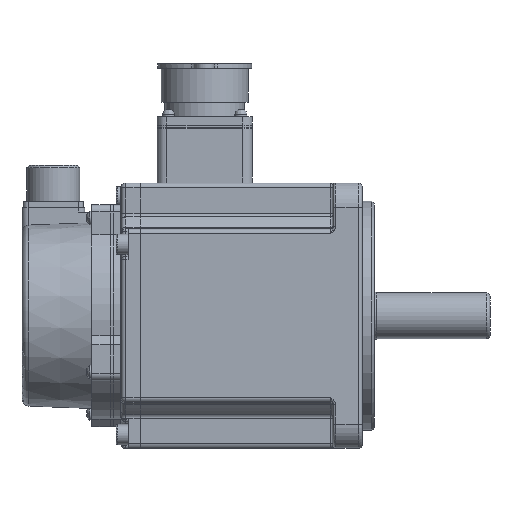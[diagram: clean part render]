
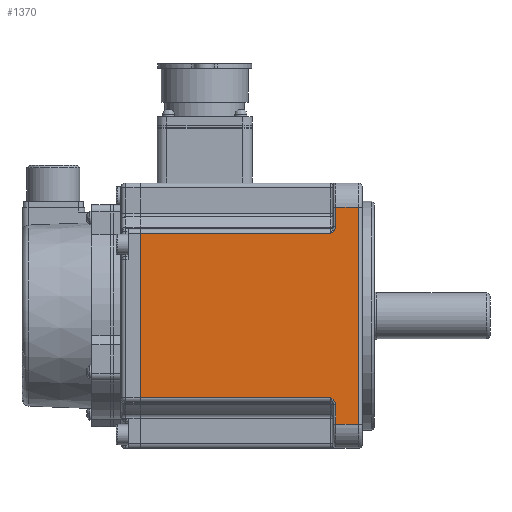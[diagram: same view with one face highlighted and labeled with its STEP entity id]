
A CAD part, left-side view. The second image highlights one B-rep face of the part: STEP entity #1370.
In plain terms, the highlighted planar face has unit normal (-1, 0, 0).
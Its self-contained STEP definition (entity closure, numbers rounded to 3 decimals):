
#598=PLANE('',#15489);
#1370=ADVANCED_FACE('',(#2690),#598,.T.);
#2690=FACE_OUTER_BOUND('',#3607,.T.);
#3607=EDGE_LOOP('',(#6966,#6967,#6968,#6969,#6970,#6971,#6972,#6973,#6974,
#6975));
#4674=B_SPLINE_CURVE_WITH_KNOTS('',3,(#22686,#22687,#22688,#22689,#22690,
#22691,#22692,#22693,#22694,#22695,#22696,#22697,#22698,#22699,#22700,#22701,
#22702,#22703,#22704),.UNSPECIFIED.,.F.,.F.,(4,3,3,3,3,3,4),(0.,0.002,
0.104,0.205,0.569,0.789,
1.),.UNSPECIFIED.);
#4675=B_SPLINE_CURVE_WITH_KNOTS('',3,(#22716,#22717,#22718,#22719,#22720,
#22721,#22722,#22723,#22724,#22725,#22726,#22727,#22728,#22729,#22730,#22731,
#22732,#22733,#22734),.UNSPECIFIED.,.F.,.F.,(4,3,3,3,3,3,4),(0.,0.211,
0.431,0.795,0.896,0.998,
1.),.UNSPECIFIED.);
#4916=LINE('',#22369,#5768);
#4976=LINE('',#22681,#5828);
#4977=LINE('',#22685,#5829);
#4978=LINE('',#22706,#5830);
#4979=LINE('',#22708,#5831);
#4980=LINE('',#22710,#5832);
#4981=LINE('',#22712,#5833);
#4982=LINE('',#22714,#5834);
#5768=VECTOR('',#17601,1.);
#5828=VECTOR('',#17779,1.);
#5829=VECTOR('',#17784,1.);
#5830=VECTOR('',#17785,1.);
#5831=VECTOR('',#17786,1.);
#5832=VECTOR('',#17787,1.);
#5833=VECTOR('',#17788,1.);
#5834=VECTOR('',#17789,1.);
#6966=ORIENTED_EDGE('',*,*,#12355,.T.);
#6967=ORIENTED_EDGE('',*,*,#12357,.F.);
#6968=ORIENTED_EDGE('',*,*,#12254,.T.);
#6969=ORIENTED_EDGE('',*,*,#12358,.T.);
#6970=ORIENTED_EDGE('',*,*,#12359,.T.);
#6971=ORIENTED_EDGE('',*,*,#12360,.T.);
#6972=ORIENTED_EDGE('',*,*,#12361,.T.);
#6973=ORIENTED_EDGE('',*,*,#12362,.T.);
#6974=ORIENTED_EDGE('',*,*,#12363,.T.);
#6975=ORIENTED_EDGE('',*,*,#12364,.T.);
#10891=VERTEX_POINT('',#22370);
#10892=VERTEX_POINT('',#22371);
#10969=VERTEX_POINT('',#22680);
#10970=VERTEX_POINT('',#22682);
#10971=VERTEX_POINT('',#22705);
#10972=VERTEX_POINT('',#22707);
#10973=VERTEX_POINT('',#22709);
#10974=VERTEX_POINT('',#22711);
#10975=VERTEX_POINT('',#22713);
#10976=VERTEX_POINT('',#22715);
#12254=EDGE_CURVE('',#10891,#10892,#4916,.T.);
#12355=EDGE_CURVE('',#10970,#10969,#4976,.T.);
#12357=EDGE_CURVE('',#10891,#10969,#4977,.T.);
#12358=EDGE_CURVE('',#10892,#10971,#4674,.T.);
#12359=EDGE_CURVE('',#10971,#10972,#4978,.T.);
#12360=EDGE_CURVE('',#10972,#10973,#4979,.T.);
#12361=EDGE_CURVE('',#10973,#10974,#4980,.T.);
#12362=EDGE_CURVE('',#10974,#10975,#4981,.T.);
#12363=EDGE_CURVE('',#10975,#10976,#4982,.T.);
#12364=EDGE_CURVE('',#10976,#10970,#4675,.T.);
#15489=AXIS2_PLACEMENT_3D('',#22735,#17790,#17791);
#17601=DIRECTION('',(0.,-1.,0.));
#17779=DIRECTION('',(0.,1.,0.));
#17784=DIRECTION('',(0.,0.,1.));
#17785=DIRECTION('',(0.,0.,-1.));
#17786=DIRECTION('',(0.,-1.,0.));
#17787=DIRECTION('',(0.,0.,1.));
#17788=DIRECTION('',(0.,1.,0.));
#17789=DIRECTION('',(0.,0.,-1.));
#17790=DIRECTION('',(-1.,0.,0.));
#17791=DIRECTION('',(0.,0.,-1.));
#22369=CARTESIAN_POINT('',(0.124,-63.778,-125.192));
#22370=CARTESIAN_POINT('',(0.124,13.922,-125.192));
#22371=CARTESIAN_POINT('',(0.124,-65.078,-125.192));
#22680=CARTESIAN_POINT('',(0.124,13.922,-57.192));
#22681=CARTESIAN_POINT('',(0.124,-63.778,-57.192));
#22682=CARTESIAN_POINT('',(0.124,-65.078,-57.192));
#22685=CARTESIAN_POINT('',(0.124,13.922,-91.192));
#22686=CARTESIAN_POINT('',(0.124,-65.078,-125.192));
#22687=CARTESIAN_POINT('',(0.124,-65.08,-125.194));
#22688=CARTESIAN_POINT('',(0.124,-65.083,-125.196));
#22689=CARTESIAN_POINT('',(0.124,-65.085,-125.197));
#22690=CARTESIAN_POINT('',(0.124,-65.185,-125.268));
#22691=CARTESIAN_POINT('',(0.124,-65.285,-125.339));
#22692=CARTESIAN_POINT('',(0.124,-65.384,-125.411));
#22693=CARTESIAN_POINT('',(0.124,-65.483,-125.482));
#22694=CARTESIAN_POINT('',(0.124,-65.581,-125.555));
#22695=CARTESIAN_POINT('',(0.124,-65.677,-125.631));
#22696=CARTESIAN_POINT('',(0.124,-66.02,-125.899));
#22697=CARTESIAN_POINT('',(0.124,-66.346,-126.204));
#22698=CARTESIAN_POINT('',(0.124,-66.594,-126.562));
#22699=CARTESIAN_POINT('',(0.124,-66.745,-126.78));
#22700=CARTESIAN_POINT('',(0.124,-66.87,-127.019));
#22701=CARTESIAN_POINT('',(0.124,-66.954,-127.271));
#22702=CARTESIAN_POINT('',(0.124,-67.034,-127.511));
#22703=CARTESIAN_POINT('',(0.124,-67.078,-127.767));
#22704=CARTESIAN_POINT('',(0.124,-67.078,-128.021));
#22705=CARTESIAN_POINT('',(0.124,-67.078,-128.021));
#22706=CARTESIAN_POINT('',(0.124,-67.078,-127.192));
#22707=CARTESIAN_POINT('',(0.124,-67.078,-136.192));
#22708=CARTESIAN_POINT('',(0.124,-78.078,-136.192));
#22709=CARTESIAN_POINT('',(0.124,-76.578,-136.192));
#22710=CARTESIAN_POINT('',(0.124,-76.578,-46.192));
#22711=CARTESIAN_POINT('',(0.124,-76.578,-46.192));
#22712=CARTESIAN_POINT('',(0.124,-78.078,-46.192));
#22713=CARTESIAN_POINT('',(0.124,-67.078,-46.192));
#22714=CARTESIAN_POINT('',(0.124,-67.078,-127.192));
#22715=CARTESIAN_POINT('',(0.124,-67.078,-54.364));
#22716=CARTESIAN_POINT('',(0.124,-67.078,-54.364));
#22717=CARTESIAN_POINT('',(0.124,-67.078,-54.617));
#22718=CARTESIAN_POINT('',(0.124,-67.034,-54.873));
#22719=CARTESIAN_POINT('',(0.124,-66.954,-55.114));
#22720=CARTESIAN_POINT('',(0.124,-66.87,-55.365));
#22721=CARTESIAN_POINT('',(0.124,-66.745,-55.605));
#22722=CARTESIAN_POINT('',(0.124,-66.594,-55.822));
#22723=CARTESIAN_POINT('',(0.124,-66.346,-56.18));
#22724=CARTESIAN_POINT('',(0.124,-66.02,-56.485));
#22725=CARTESIAN_POINT('',(0.124,-65.677,-56.754));
#22726=CARTESIAN_POINT('',(0.124,-65.581,-56.829));
#22727=CARTESIAN_POINT('',(0.124,-65.483,-56.902));
#22728=CARTESIAN_POINT('',(0.124,-65.384,-56.974));
#22729=CARTESIAN_POINT('',(0.124,-65.285,-57.046));
#22730=CARTESIAN_POINT('',(0.124,-65.185,-57.116));
#22731=CARTESIAN_POINT('',(0.124,-65.085,-57.187));
#22732=CARTESIAN_POINT('',(0.124,-65.083,-57.189));
#22733=CARTESIAN_POINT('',(0.124,-65.08,-57.19));
#22734=CARTESIAN_POINT('',(0.124,-65.078,-57.192));
#22735=CARTESIAN_POINT('',(0.124,-63.778,-127.192));
